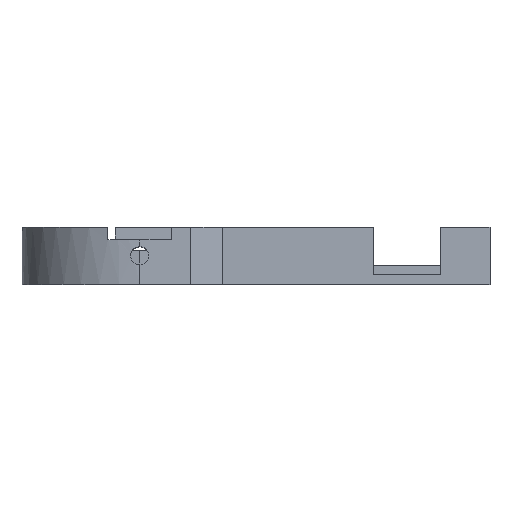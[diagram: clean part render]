
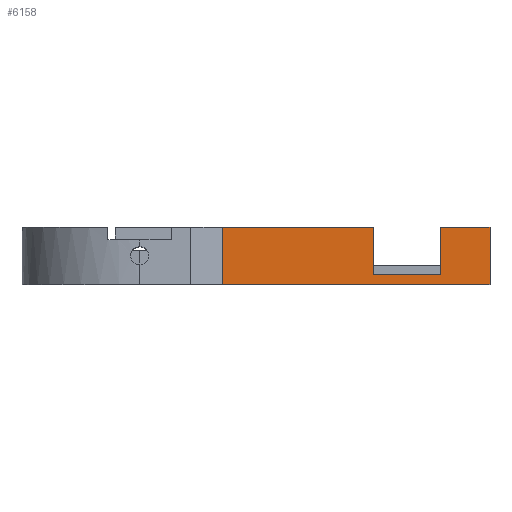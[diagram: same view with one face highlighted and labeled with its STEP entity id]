
A CAD part, top view. The second image highlights one B-rep face of the part: STEP entity #6158.
In plain terms, the highlighted planar face has unit normal (0, 0, 1).
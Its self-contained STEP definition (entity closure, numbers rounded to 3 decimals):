
#414 = PLANE('',#415);
#415 = AXIS2_PLACEMENT_3D('',#416,#417,#418);
#416 = CARTESIAN_POINT('',(0.,9.,0.));
#417 = DIRECTION('',(0.,1.,0.));
#418 = DIRECTION('',(0.,-0.,1.));
#1646 = PLANE('',#1647);
#1647 = AXIS2_PLACEMENT_3D('',#1648,#1649,#1650);
#1648 = CARTESIAN_POINT('',(0.,0.,0.));
#1649 = DIRECTION('',(0.,1.,0.));
#1650 = DIRECTION('',(0.,-0.,1.));
#2164 = PLANE('',#2165);
#2165 = AXIS2_PLACEMENT_3D('',#2166,#2167,#2168);
#2166 = CARTESIAN_POINT('',(0.,9.,0.));
#2167 = DIRECTION('',(0.,1.,0.));
#2168 = DIRECTION('',(0.,-0.,1.));
#2212 = VERTEX_POINT('',#2213);
#2213 = CARTESIAN_POINT('',(13.,9.,17.529));
#2227 = PLANE('',#2228);
#2228 = AXIS2_PLACEMENT_3D('',#2229,#2230,#2231);
#2229 = CARTESIAN_POINT('',(13.,-48.593,17.529));
#2230 = DIRECTION('',(0.191,-0.,0.982));
#2231 = DIRECTION('',(0.982,0.,-0.191));
#2239 = EDGE_CURVE('',#2212,#2240,#2242,.T.);
#2240 = VERTEX_POINT('',#2241);
#2241 = CARTESIAN_POINT('',(36.725,9.,17.529));
#2242 = SURFACE_CURVE('',#2243,(#2247,#2254),.PCURVE_S1.);
#2243 = LINE('',#2244,#2245);
#2244 = CARTESIAN_POINT('',(51.025,9.,17.529));
#2245 = VECTOR('',#2246,1.);
#2246 = DIRECTION('',(1.,-0.,0.));
#2247 = PCURVE('',#2164,#2248);
#2248 = DEFINITIONAL_REPRESENTATION('',(#2249),#2253);
#2249 = LINE('',#2250,#2251);
#2250 = CARTESIAN_POINT('',(17.529,51.025));
#2251 = VECTOR('',#2252,1.);
#2252 = DIRECTION('',(0.,1.));
#2253 = ( GEOMETRIC_REPRESENTATION_CONTEXT(2) 
PARAMETRIC_REPRESENTATION_CONTEXT() REPRESENTATION_CONTEXT('2D SPACE',''
  ) );
#2254 = PCURVE('',#2255,#2260);
#2255 = PLANE('',#2256);
#2256 = AXIS2_PLACEMENT_3D('',#2257,#2258,#2259);
#2257 = CARTESIAN_POINT('',(51.025,9.,17.529));
#2258 = DIRECTION('',(0.,0.,-1.));
#2259 = DIRECTION('',(-1.,0.,0.));
#2260 = DEFINITIONAL_REPRESENTATION('',(#2261),#2265);
#2261 = LINE('',#2262,#2263);
#2262 = CARTESIAN_POINT('',(0.,0.));
#2263 = VECTOR('',#2264,1.);
#2264 = DIRECTION('',(-1.,0.));
#2265 = ( GEOMETRIC_REPRESENTATION_CONTEXT(2) 
PARAMETRIC_REPRESENTATION_CONTEXT() REPRESENTATION_CONTEXT('2D SPACE',''
  ) );
#2283 = PLANE('',#2284);
#2284 = AXIS2_PLACEMENT_3D('',#2285,#2286,#2287);
#2285 = CARTESIAN_POINT('',(36.725,9.,15.29));
#2286 = DIRECTION('',(1.,0.,-0.));
#2287 = DIRECTION('',(-0.,0.,-1.));
#5481 = EDGE_CURVE('',#5482,#5484,#5486,.T.);
#5482 = VERTEX_POINT('',#5483);
#5483 = CARTESIAN_POINT('',(13.,0.,17.529));
#5484 = VERTEX_POINT('',#5485);
#5485 = CARTESIAN_POINT('',(55.025,0.,17.529));
#5486 = SURFACE_CURVE('',#5487,(#5491,#5498),.PCURVE_S1.);
#5487 = LINE('',#5488,#5489);
#5488 = CARTESIAN_POINT('',(51.025,0.,17.529));
#5489 = VECTOR('',#5490,1.);
#5490 = DIRECTION('',(1.,-0.,0.));
#5491 = PCURVE('',#1646,#5492);
#5492 = DEFINITIONAL_REPRESENTATION('',(#5493),#5497);
#5493 = LINE('',#5494,#5495);
#5494 = CARTESIAN_POINT('',(17.529,51.025));
#5495 = VECTOR('',#5496,1.);
#5496 = DIRECTION('',(0.,1.));
#5497 = ( GEOMETRIC_REPRESENTATION_CONTEXT(2) 
PARAMETRIC_REPRESENTATION_CONTEXT() REPRESENTATION_CONTEXT('2D SPACE',''
  ) );
#5498 = PCURVE('',#2255,#5499);
#5499 = DEFINITIONAL_REPRESENTATION('',(#5500),#5504);
#5500 = LINE('',#5501,#5502);
#5501 = CARTESIAN_POINT('',(-0.,-9.));
#5502 = VECTOR('',#5503,1.);
#5503 = DIRECTION('',(-1.,0.));
#5504 = ( GEOMETRIC_REPRESENTATION_CONTEXT(2) 
PARAMETRIC_REPRESENTATION_CONTEXT() REPRESENTATION_CONTEXT('2D SPACE',''
  ) );
#5644 = PLANE('',#5645);
#5645 = AXIS2_PLACEMENT_3D('',#5646,#5647,#5648);
#5646 = CARTESIAN_POINT('',(55.025,0.,0.));
#5647 = DIRECTION('',(1.,0.,0.));
#5648 = DIRECTION('',(0.,0.,-1.));
#6088 = VERTEX_POINT('',#6089);
#6089 = CARTESIAN_POINT('',(47.325,9.,17.529));
#6103 = PLANE('',#6104);
#6104 = AXIS2_PLACEMENT_3D('',#6105,#6106,#6107);
#6105 = CARTESIAN_POINT('',(47.325,7.,0.));
#6106 = DIRECTION('',(1.,0.,0.));
#6107 = DIRECTION('',(0.,0.,-1.));
#6115 = EDGE_CURVE('',#6088,#6116,#6118,.T.);
#6116 = VERTEX_POINT('',#6117);
#6117 = CARTESIAN_POINT('',(55.025,9.,17.529));
#6118 = SURFACE_CURVE('',#6119,(#6123,#6130),.PCURVE_S1.);
#6119 = LINE('',#6120,#6121);
#6120 = CARTESIAN_POINT('',(51.025,9.,17.529));
#6121 = VECTOR('',#6122,1.);
#6122 = DIRECTION('',(1.,-0.,0.));
#6123 = PCURVE('',#414,#6124);
#6124 = DEFINITIONAL_REPRESENTATION('',(#6125),#6129);
#6125 = LINE('',#6126,#6127);
#6126 = CARTESIAN_POINT('',(17.529,51.025));
#6127 = VECTOR('',#6128,1.);
#6128 = DIRECTION('',(0.,1.));
#6129 = ( GEOMETRIC_REPRESENTATION_CONTEXT(2) 
PARAMETRIC_REPRESENTATION_CONTEXT() REPRESENTATION_CONTEXT('2D SPACE',''
  ) );
#6130 = PCURVE('',#2255,#6131);
#6131 = DEFINITIONAL_REPRESENTATION('',(#6132),#6136);
#6132 = LINE('',#6133,#6134);
#6133 = CARTESIAN_POINT('',(0.,0.));
#6134 = VECTOR('',#6135,1.);
#6135 = DIRECTION('',(-1.,0.));
#6136 = ( GEOMETRIC_REPRESENTATION_CONTEXT(2) 
PARAMETRIC_REPRESENTATION_CONTEXT() REPRESENTATION_CONTEXT('2D SPACE',''
  ) );
#6158 = ADVANCED_FACE('',(#6159),#2255,.F.);
#6159 = FACE_BOUND('',#6160,.T.);
#6160 = EDGE_LOOP('',(#6161,#6191,#6212,#6213,#6234,#6235,#6256,#6257));
#6161 = ORIENTED_EDGE('',*,*,#6162,.F.);
#6162 = EDGE_CURVE('',#6163,#6165,#6167,.T.);
#6163 = VERTEX_POINT('',#6164);
#6164 = CARTESIAN_POINT('',(36.725,1.5,17.529));
#6165 = VERTEX_POINT('',#6166);
#6166 = CARTESIAN_POINT('',(47.325,1.5,17.529));
#6167 = SURFACE_CURVE('',#6168,(#6172,#6179),.PCURVE_S1.);
#6168 = LINE('',#6169,#6170);
#6169 = CARTESIAN_POINT('',(36.725,1.5,17.529));
#6170 = VECTOR('',#6171,1.);
#6171 = DIRECTION('',(1.,0.,0.));
#6172 = PCURVE('',#2255,#6173);
#6173 = DEFINITIONAL_REPRESENTATION('',(#6174),#6178);
#6174 = LINE('',#6175,#6176);
#6175 = CARTESIAN_POINT('',(14.3,-7.5));
#6176 = VECTOR('',#6177,1.);
#6177 = DIRECTION('',(-1.,0.));
#6178 = ( GEOMETRIC_REPRESENTATION_CONTEXT(2) 
PARAMETRIC_REPRESENTATION_CONTEXT() REPRESENTATION_CONTEXT('2D SPACE',''
  ) );
#6179 = PCURVE('',#6180,#6185);
#6180 = PLANE('',#6181);
#6181 = AXIS2_PLACEMENT_3D('',#6182,#6183,#6184);
#6182 = CARTESIAN_POINT('',(0.,1.5,0.));
#6183 = DIRECTION('',(0.,-1.,0.));
#6184 = DIRECTION('',(0.,-0.,-1.));
#6185 = DEFINITIONAL_REPRESENTATION('',(#6186),#6190);
#6186 = LINE('',#6187,#6188);
#6187 = CARTESIAN_POINT('',(-17.529,36.725));
#6188 = VECTOR('',#6189,1.);
#6189 = DIRECTION('',(0.,1.));
#6190 = ( GEOMETRIC_REPRESENTATION_CONTEXT(2) 
PARAMETRIC_REPRESENTATION_CONTEXT() REPRESENTATION_CONTEXT('2D SPACE',''
  ) );
#6191 = ORIENTED_EDGE('',*,*,#6192,.F.);
#6192 = EDGE_CURVE('',#2240,#6163,#6193,.T.);
#6193 = SURFACE_CURVE('',#6194,(#6198,#6205),.PCURVE_S1.);
#6194 = LINE('',#6195,#6196);
#6195 = CARTESIAN_POINT('',(36.725,9.,17.529));
#6196 = VECTOR('',#6197,1.);
#6197 = DIRECTION('',(0.,-1.,0.));
#6198 = PCURVE('',#2255,#6199);
#6199 = DEFINITIONAL_REPRESENTATION('',(#6200),#6204);
#6200 = LINE('',#6201,#6202);
#6201 = CARTESIAN_POINT('',(14.3,0.));
#6202 = VECTOR('',#6203,1.);
#6203 = DIRECTION('',(-0.,-1.));
#6204 = ( GEOMETRIC_REPRESENTATION_CONTEXT(2) 
PARAMETRIC_REPRESENTATION_CONTEXT() REPRESENTATION_CONTEXT('2D SPACE',''
  ) );
#6205 = PCURVE('',#2283,#6206);
#6206 = DEFINITIONAL_REPRESENTATION('',(#6207),#6211);
#6207 = LINE('',#6208,#6209);
#6208 = CARTESIAN_POINT('',(-2.239,0.));
#6209 = VECTOR('',#6210,1.);
#6210 = DIRECTION('',(-0.,-1.));
#6211 = ( GEOMETRIC_REPRESENTATION_CONTEXT(2) 
PARAMETRIC_REPRESENTATION_CONTEXT() REPRESENTATION_CONTEXT('2D SPACE',''
  ) );
#6212 = ORIENTED_EDGE('',*,*,#2239,.F.);
#6213 = ORIENTED_EDGE('',*,*,#6214,.F.);
#6214 = EDGE_CURVE('',#5482,#2212,#6215,.T.);
#6215 = SURFACE_CURVE('',#6216,(#6220,#6227),.PCURVE_S1.);
#6216 = LINE('',#6217,#6218);
#6217 = CARTESIAN_POINT('',(13.,-48.593,17.529));
#6218 = VECTOR('',#6219,1.);
#6219 = DIRECTION('',(0.,1.,0.));
#6220 = PCURVE('',#2255,#6221);
#6221 = DEFINITIONAL_REPRESENTATION('',(#6222),#6226);
#6222 = LINE('',#6223,#6224);
#6223 = CARTESIAN_POINT('',(38.025,-57.593));
#6224 = VECTOR('',#6225,1.);
#6225 = DIRECTION('',(0.,1.));
#6226 = ( GEOMETRIC_REPRESENTATION_CONTEXT(2) 
PARAMETRIC_REPRESENTATION_CONTEXT() REPRESENTATION_CONTEXT('2D SPACE',''
  ) );
#6227 = PCURVE('',#2227,#6228);
#6228 = DEFINITIONAL_REPRESENTATION('',(#6229),#6233);
#6229 = LINE('',#6230,#6231);
#6230 = CARTESIAN_POINT('',(0.,0.));
#6231 = VECTOR('',#6232,1.);
#6232 = DIRECTION('',(0.,1.));
#6233 = ( GEOMETRIC_REPRESENTATION_CONTEXT(2) 
PARAMETRIC_REPRESENTATION_CONTEXT() REPRESENTATION_CONTEXT('2D SPACE',''
  ) );
#6234 = ORIENTED_EDGE('',*,*,#5481,.T.);
#6235 = ORIENTED_EDGE('',*,*,#6236,.F.);
#6236 = EDGE_CURVE('',#6116,#5484,#6237,.T.);
#6237 = SURFACE_CURVE('',#6238,(#6242,#6249),.PCURVE_S1.);
#6238 = LINE('',#6239,#6240);
#6239 = CARTESIAN_POINT('',(55.025,9.,17.529));
#6240 = VECTOR('',#6241,1.);
#6241 = DIRECTION('',(0.,-1.,0.));
#6242 = PCURVE('',#2255,#6243);
#6243 = DEFINITIONAL_REPRESENTATION('',(#6244),#6248);
#6244 = LINE('',#6245,#6246);
#6245 = CARTESIAN_POINT('',(-4.,0.));
#6246 = VECTOR('',#6247,1.);
#6247 = DIRECTION('',(-0.,-1.));
#6248 = ( GEOMETRIC_REPRESENTATION_CONTEXT(2) 
PARAMETRIC_REPRESENTATION_CONTEXT() REPRESENTATION_CONTEXT('2D SPACE',''
  ) );
#6249 = PCURVE('',#5644,#6250);
#6250 = DEFINITIONAL_REPRESENTATION('',(#6251),#6255);
#6251 = LINE('',#6252,#6253);
#6252 = CARTESIAN_POINT('',(-17.529,9.));
#6253 = VECTOR('',#6254,1.);
#6254 = DIRECTION('',(0.,-1.));
#6255 = ( GEOMETRIC_REPRESENTATION_CONTEXT(2) 
PARAMETRIC_REPRESENTATION_CONTEXT() REPRESENTATION_CONTEXT('2D SPACE',''
  ) );
#6256 = ORIENTED_EDGE('',*,*,#6115,.F.);
#6257 = ORIENTED_EDGE('',*,*,#6258,.T.);
#6258 = EDGE_CURVE('',#6088,#6165,#6259,.T.);
#6259 = SURFACE_CURVE('',#6260,(#6264,#6271),.PCURVE_S1.);
#6260 = LINE('',#6261,#6262);
#6261 = CARTESIAN_POINT('',(47.325,9.,17.529));
#6262 = VECTOR('',#6263,1.);
#6263 = DIRECTION('',(0.,-1.,0.));
#6264 = PCURVE('',#2255,#6265);
#6265 = DEFINITIONAL_REPRESENTATION('',(#6266),#6270);
#6266 = LINE('',#6267,#6268);
#6267 = CARTESIAN_POINT('',(3.7,0.));
#6268 = VECTOR('',#6269,1.);
#6269 = DIRECTION('',(-0.,-1.));
#6270 = ( GEOMETRIC_REPRESENTATION_CONTEXT(2) 
PARAMETRIC_REPRESENTATION_CONTEXT() REPRESENTATION_CONTEXT('2D SPACE',''
  ) );
#6271 = PCURVE('',#6103,#6272);
#6272 = DEFINITIONAL_REPRESENTATION('',(#6273),#6277);
#6273 = LINE('',#6274,#6275);
#6274 = CARTESIAN_POINT('',(-17.529,2.));
#6275 = VECTOR('',#6276,1.);
#6276 = DIRECTION('',(0.,-1.));
#6277 = ( GEOMETRIC_REPRESENTATION_CONTEXT(2) 
PARAMETRIC_REPRESENTATION_CONTEXT() REPRESENTATION_CONTEXT('2D SPACE',''
  ) );
